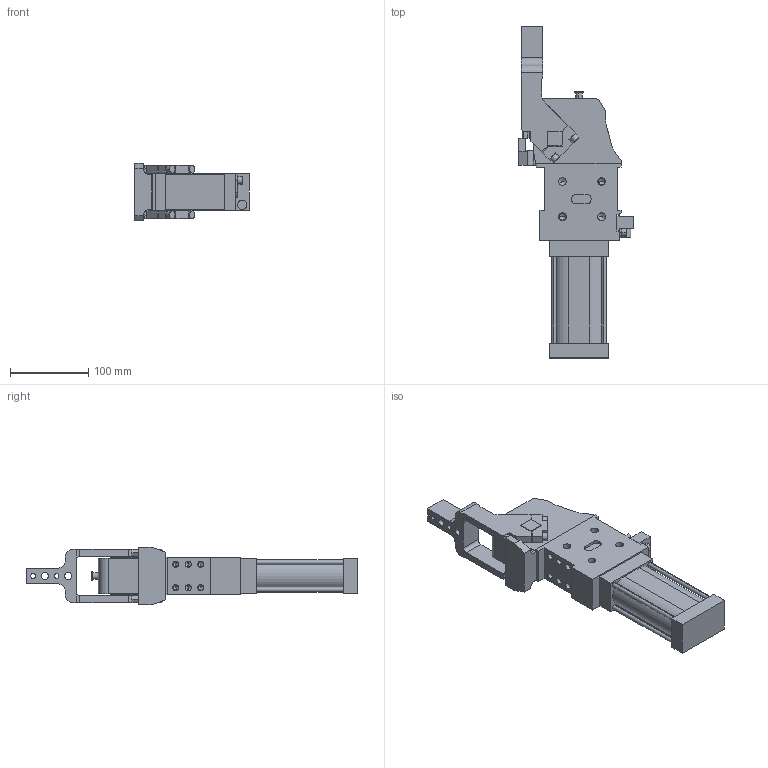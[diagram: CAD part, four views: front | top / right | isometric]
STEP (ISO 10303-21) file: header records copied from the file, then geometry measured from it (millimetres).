
FILE_DESCRIPTION (( 'STEP AP214' ), '1' );
FILE_NAME ('cpl50th1ci1g_107.STEP', '2023-01-26T09:50:36', ( '' ), ( '' ), 'SwSTEP 2.0', 'SolidWorks 2022', '' );
FILE_SCHEMA (( 'AUTOMOTIVE_DESIGN' ));
Length unit declared in the file: millimetre
Products named in the file (4): leva_h1c_cpl50t; blocchetto_VEP_0; cpl50th1ci1g_107; meccanica_cpl_50_tassello_esterno
Assembly tree (3 placements, depth 2):
  cpl50th1ci1g_107
    meccanica_cpl_50_tassello_esterno
    blocchetto_VEP_0
    leva_h1c_cpl50t
Bounding box: 146.5 x 424.5 x 74 mm (x, y, z)
Volume: 1409584.3 mm3; surface area: 169104.7 mm2
Topology: 3 solids, 3 shells, 434 faces, 1130 edges, 705 vertices
Faces by surface type: plane 226, cylinder 158, cone 50
Entity records: 14536 total; most frequent: CARTESIAN_POINT 2311, DIRECTION 2288, ORIENTED_EDGE 2168, EDGE_CURVE 1084, AXIS2_PLACEMENT_3D 772, LINE 744, VECTOR 744, VERTEX_POINT 705
